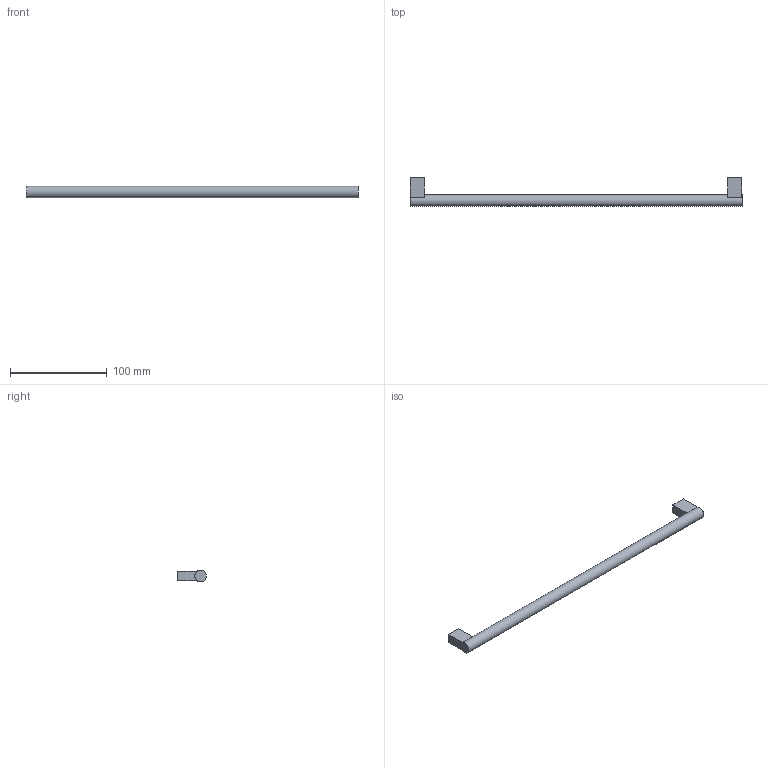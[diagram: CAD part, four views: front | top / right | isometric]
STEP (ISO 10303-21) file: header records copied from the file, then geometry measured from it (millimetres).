
FILE_DESCRIPTION( ( 'STEP AP214' ), '1' );
FILE_NAME( 'C:/Users/swati/Desktop/10-03-2016/2nd half/9212084/9212084.stp', ' ', ( ' ' ), ( ' ' ), 'PSStep 15.0.47', 'PARTsolutions', ' ' );
FILE_SCHEMA( ( 'AUTOMOTIVE_DESIGN { 1 0 10303 214 1 1 1 1 }' ) );
Length unit declared in the file: millimetre
Products named in the file (2): 95 ; _
Assembly tree (1 placements, depth 2):
  95 
    _
Bounding box: 344 x 30 x 12 mm (x, y, z)
Volume: 44343 mm3; surface area: 15333.9 mm2
Topology: 1 solids, 1 shells, 17 faces, 33 edges, 22 vertices
Faces by surface type: plane 14, cylinder 3
Full cylindrical faces by diameter (mm): 4 x2, 12 x1
Entity records: 596 total; most frequent: DIRECTION 78, CARTESIAN_POINT 71, ORIENTED_EDGE 60, EDGE_CURVE 30, AXIS2_PLACEMENT_3D 29, EDGE_LOOP 24, VERTEX_POINT 22, FACE_OUTER_BOUND 20
